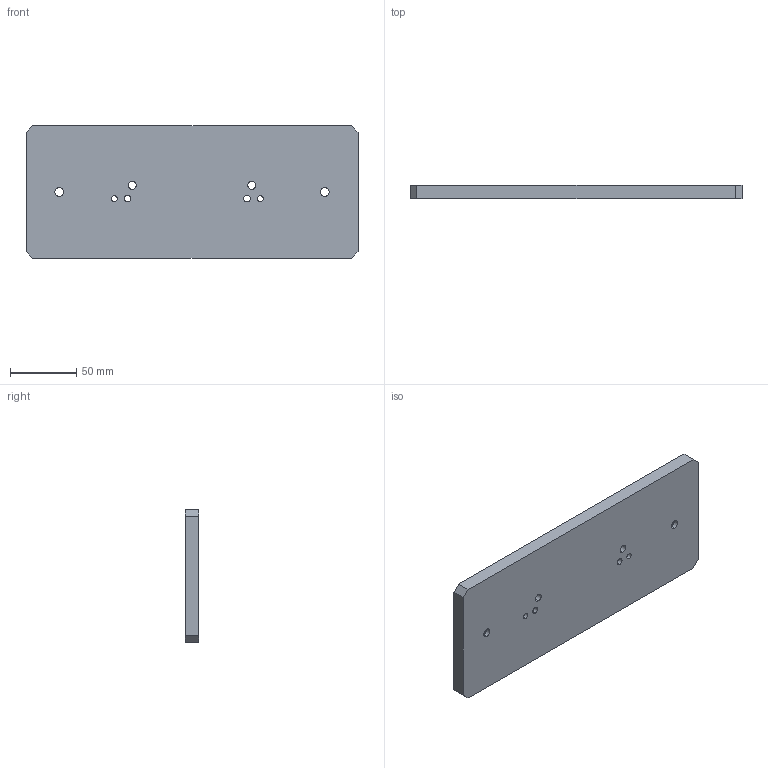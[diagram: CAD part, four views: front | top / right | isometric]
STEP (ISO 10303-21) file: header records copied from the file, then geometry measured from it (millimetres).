
FILE_DESCRIPTION (( 'STEP AP214' ), '1' );
FILE_NAME ('昇降プレート.STEP', '2024-05-17T04:41:47', ( '' ), ( '' ), 'SwSTEP 2.0', 'SolidWorks 2023', '' );
FILE_SCHEMA (( 'AUTOMOTIVE_DESIGN' ));
Length unit declared in the file: millimetre
Products named in the file (1): 昇降プレート
Bounding box: 250 x 10 x 100 mm (x, y, z)
Volume: 246439.6 mm3; surface area: 58058 mm2
Topology: 1 solids, 1 shells, 38 faces, 96 edges, 64 vertices
Faces by surface type: cylinder 24, plane 14
Entity records: 1223 total; most frequent: DIRECTION 222, CARTESIAN_POINT 199, ORIENTED_EDGE 192, EDGE_CURVE 96, AXIS2_PLACEMENT_3D 87, VERTEX_POINT 64, EDGE_LOOP 58, CIRCLE 48
